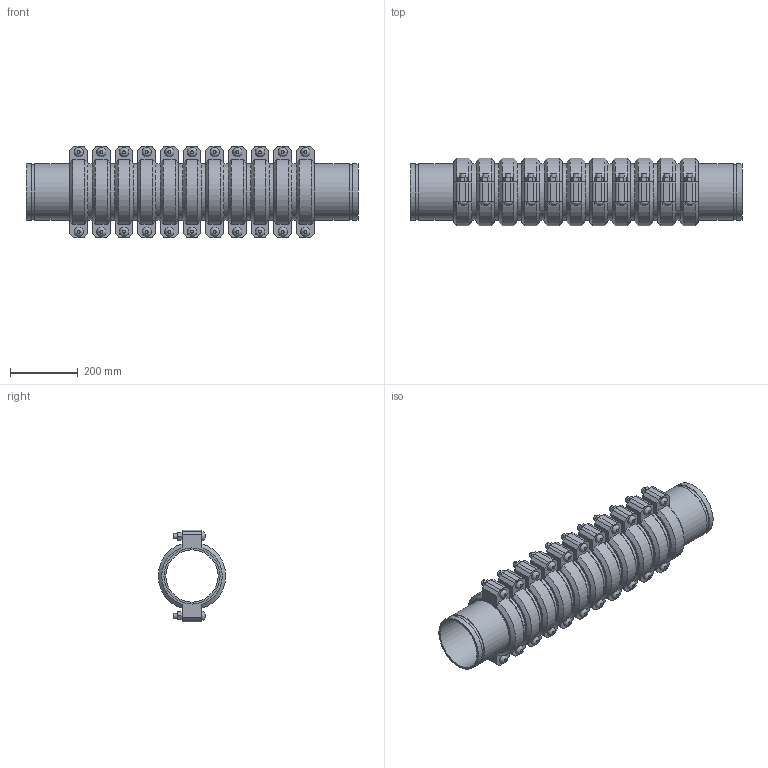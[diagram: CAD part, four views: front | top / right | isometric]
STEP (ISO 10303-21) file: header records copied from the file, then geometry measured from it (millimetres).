
FILE_DESCRIPTION(/* description */ ('VIC EXPANSION JOINT 11 COUPLINGS EXPANDED STYLE 155 (OGS)','CAx-IF Rec.Pracs.---Representation and Presentation of Product Manufacturing Information (PMI)---4.0---2014-10-13'),/* implementation_level */ '2;1');
FILE_NAME(/* name */ 'C:\Users\kkamble\AppData\Roaming\Autodesk\ApplicationPlugins\Victaulic.Temp\A474\Victaulic_IPS_Expansion Joint_Expanded_11 Couplings_Style 155 (OGS)_06.0 (165.1) (150).stp',/* time_stamp */ '2021-06-26T23:52:29+02:00',/* author */ ('kkamble'),/* organization */ ('Victaulic'),/* preprocessor_version */ 'ST-DEVELOPER v17.2',/* originating_system */ 'Autodesk Inventor 2019',/* authorisation */ '');
FILE_SCHEMA (('AP242_MANAGED_MODEL_BASED_3D_ENGINEERING_MIM_LF { 1 0 10303 442 1 1 4 }'));
Length unit declared in the file: inch
Products named in the file (4): 155-06.0 (165.1); Nipple-06.0 (165.1); Nipple-06.0 (165.1)_1; 075-06.0 (165.1)
Assembly tree (23 placements, depth 2):
  155-06.0 (165.1)
    Nipple-06.0 (165.1)  x2
    Nipple-06.0 (165.1)_1  x10
    075-06.0 (165.1)  x11
Bounding box: 978.41 x 198.42 x 270.76 mm (x, y, z)
Volume: 10142923.4 mm3; surface area: 2257035.8 mm2
Topology: 23 solids, 45 shells, 771 faces, 1823 edges, 1278 vertices
Faces by surface type: plane 468, cylinder 237, cone 44, bspline 22
Full cylindrical faces by diameter (mm): 15.875 x44, 17.424 x22, 153.975 x12, 158.75 x11, 160.782 x24, 165.1 x58
Entity records: 2897 total; most frequent: CARTESIAN_POINT 507, DIRECTION 489, ORIENTED_EDGE 386, AXIS2_PLACEMENT_3D 198, EDGE_CURVE 193, VERTEX_POINT 138, EDGE_LOOP 107, LINE 93
